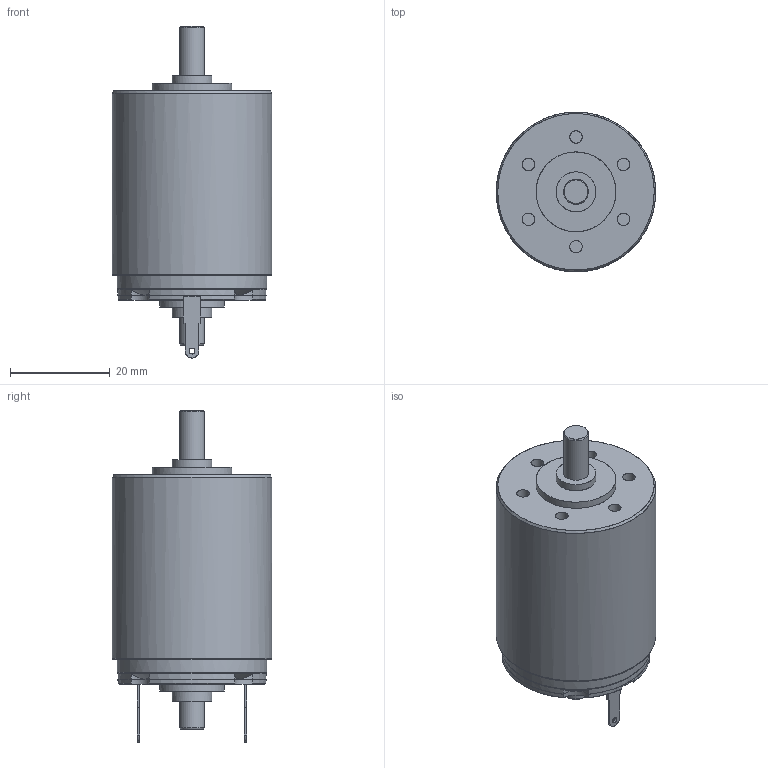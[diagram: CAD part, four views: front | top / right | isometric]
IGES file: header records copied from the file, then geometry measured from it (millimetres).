
Global section: file name: R:\a_public\Organisationsentwicklung\Aufgaben\CAD_Modelle_Vertrieb\Motor\3242.CR\3242.CR.igs; native system: NX V7.5; preprocessor: SIEMENS PLM Software NX 7.5; author: DR. FRITZ FAULHABER GmbH & Co. KG; organization: DR. FRITZ FAULHABER GmbH & Co. KG; date: 20121106.134137; units: millimetre
Bounding box: 32 x 31.98 x 66.6 mm (x, y, z)
Surface area: 6925.1 mm2 (no closed solid volume)
Topology: 0 solids, 0 shells, 126 faces, 1028 edges, 971 vertices
Faces by surface type: bspline 126
